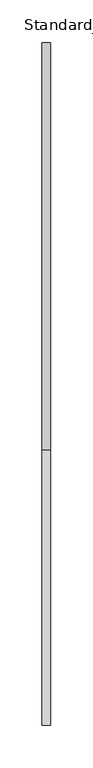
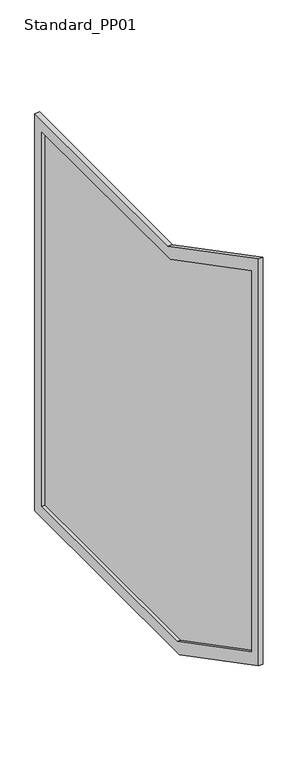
"""IFC4 building model written with IfcOpenShell, lengths in millimetres: railing geometry, Baluster-Landing-Panel-VIVA-STRUC-Upper : Standard_PP01."""

from ifc_helpers import new_model, si_unit, frame, origin, place, context, project, spatial, polyline, outline, extrude, source, transform, mapped, element, save


def standard_pp01_6bf6f29d(model_context):
    return source(origin(), model_context, "Body", "SweptSolid", [
        extrude(outline(polyline([(-206.7060559, 91.4601304), (-694.9083194, 91.4601304), (-959.3372584, 229.1131232), (-959.3372584, 1063.4295139), (-666.564764, 911.0218), (-206.7060559, 911.0218), (-206.7060559, 91.4601304)])), frame((62.2681, 0.0, 0.0), z_axis=(1.0, 0.0, 0.0), x_axis=(0.0, 1.0, 0.0)), (0.0, 0.0, 1.0), 2.9972),
        extrude(outline(polyline([(-984.7372584, 213.7000248), (-984.7372584, 1105.2874184), (-660.3494236, 936.4218), (-181.3060559, 936.4218), (-181.3060559, 66.0601304), (-701.1236599, 66.0601304), (-984.7372584, 213.7000248)]), holes=[polyline([(-206.7060559, 911.0218), (-666.564764, 911.0218), (-959.3372584, 1063.4295139), (-959.3372584, 229.1131232), (-694.9083194, 91.4601304), (-206.7060559, 91.4601304), (-206.7060559, 911.0218)])]), frame((55.7403, 0.0, 0.0), z_axis=(1.0, 0.0, 0.0), x_axis=(0.0, 1.0, 0.0)), (0.0, 0.0, 1.0), 9.525),
    ])


if __name__ == "__main__":
    model = new_model("IFC4")
    model_context = context("Model", 3, world=origin())
    ifc_project = project(units=[si_unit("LENGTHUNIT", "METRE", prefix="MILLI")], contexts=[model_context])
    site = spatial("IfcSite", under=ifc_project)
    building = spatial("IfcBuilding", under=site)
    placement = place(None, origin())
    standard_pp01_shape = standard_pp01_6bf6f29d(model_context)
    element("IfcRailing", 1, ObjectType="Baluster-Landing-Panel-VIVA-STRUC-Upper : Standard_PP01", at=placement, inside=building, context=model_context, shape_type="MappedRepresentation", body=[
        mapped(standard_pp01_shape, transform((0.0, 0.0, 0.0), x_axis=(1.0, 0.0, 0.0), y_axis=(0.0, 1.0, 0.0), z_axis=(0.0, 0.0, 1.0))),
    ])
    save(model, "model.ifc")
